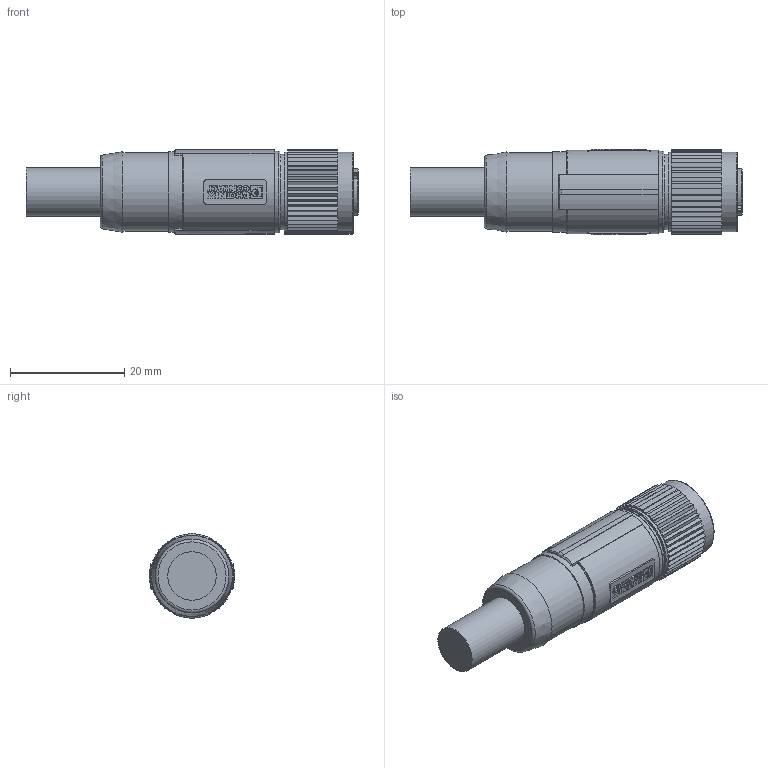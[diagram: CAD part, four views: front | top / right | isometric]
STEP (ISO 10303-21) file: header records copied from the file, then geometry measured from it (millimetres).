
FILE_DESCRIPTION( ( 'Unknown' ), '1' );
FILE_NAME( '//baumernet.org/ch01apps/SolidEdge/Models/Dokumentationen/_Standardteile/Kabeldosen/Phoenix/ES 34/Vereinfachte Modelle/Neutralformate/ESG 34JPxxxxG.stp', 'Unknown', ( 'Unknown' ), ( 'Unknown' ), 'PSStep 10.0', 'Unknown', ' ' );
FILE_SCHEMA( ( 'AUTOMOTIVE_DESIGN { 1 0 10303 214 1 1 1 1 }' ) );
Length unit declared in the file: millimetre
Products named in the file (1): 1437083
Bounding box: 58.2 x 15 x 15.01 mm (x, y, z)
Volume: 7318.6 mm3; surface area: 3698.8 mm2
Topology: 1 solids, 1 shells, 664 faces, 1784 edges, 1184 vertices
Faces by surface type: plane 402, cylinder 127, extrusion 56, bspline 33, torus 27, cone 17, sphere 2
Full cylindrical faces by diameter (mm): 0.7 x12, 8.5 x1, 12.4 x1, 13.25 x1, 13.7 x1, 14.1 x1, 14.3 x1
Entity records: 28927 total; most frequent: CARTESIAN_POINT 7548, ORIENTED_EDGE 3476, DIRECTION 2933, EDGE_CURVE 1738, VECTOR 1221, VERTEX_POINT 1175, LINE 1165, AXIS2_PLACEMENT_3D 856
